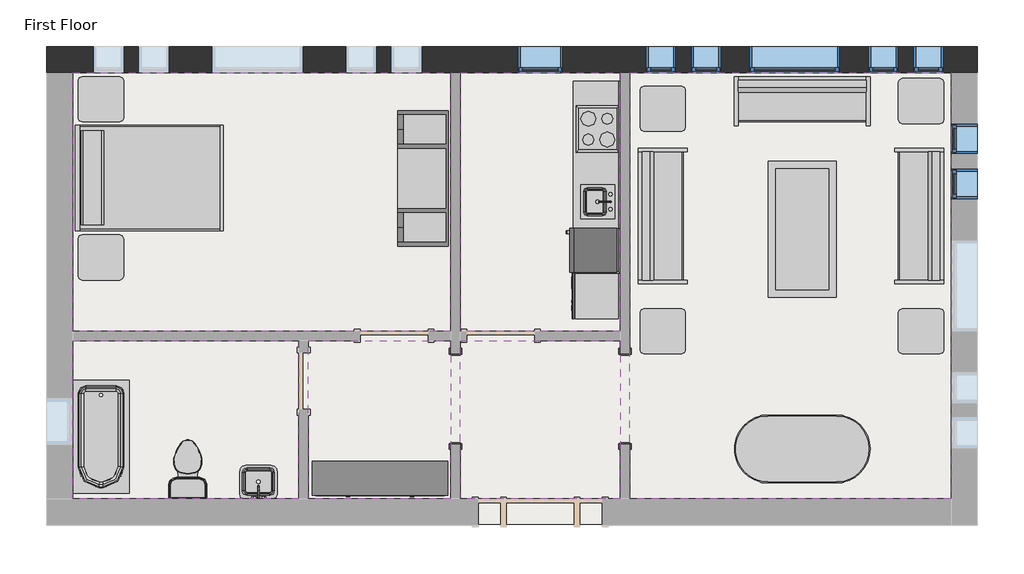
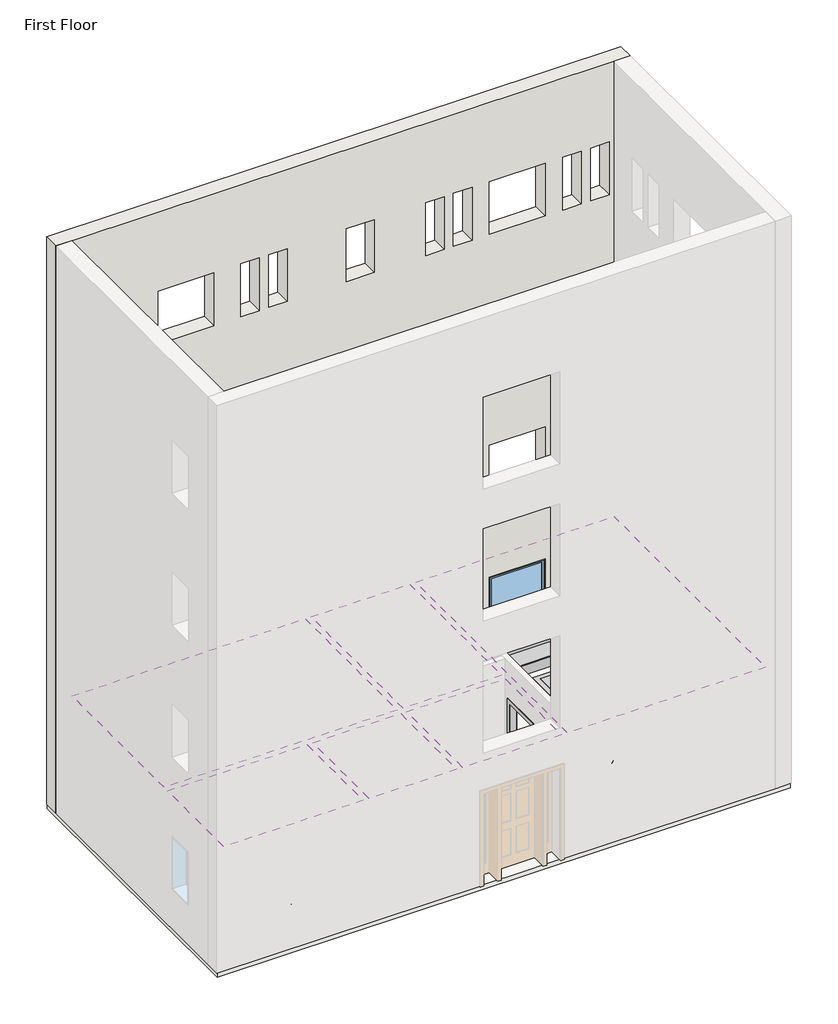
# One storey, part 2 of 2: 15 furniture elements, 8 windows, 6 coverings, 6 proxies, 4 flow terminals, 1 slab, 1 wall.
"""IFC4 building model written with IfcOpenShell, lengths in millimetres."""

from ifc_helpers import new_model, si_unit, frame, origin, place, context, project, spatial, polyline, outline, extrude, faceted_brep, transform, mapped, element, save
from components import proxy_a6faaae8, proxy_45b28599, proxy_a6516e2b, proxy_f44482cc, proxy_c523a7b7, flow_terminal_871c2e40, flow_terminal_62a433f7, toilet_domestic_3d_toilet_domestic_3d_f7549cf7, toilet_domestic_3d_toilet_domestic_3d_183bbd19, tub_rectangular_3d_tub_rectangular_3d_c56944d8, furniture_096e7f55, furniture_dc2eca4b, furniture_7c473f12, furniture_cf0b6580, furniture_a4ffab56, furniture_cd93a443, furniture_2c34a4f9, furniture_3a588284, window_da97879f, window_60baf983, window_6eb97611

model = new_model("IFC4")

# Units and contexts
model_context = context("Model", 3, world=origin())
ifc_project = project(units=[si_unit("LENGTHUNIT", "METRE", prefix="MILLI")], contexts=[model_context])

# Site, building, storey
site = spatial("IfcSite", under=ifc_project)
building = spatial("IfcBuilding", under=site)
storey = spatial("IfcBuildingStorey", under=building, Name="First Floor", Elevation=0.0)

# Proxies
placement = place(None, origin())
proxy_shape = proxy_a6faaae8(model_context)
element("IfcBuildingElementProxy", 1, Name="Cook Top-4 Unit2 : 22\" x 20\"", ObjectType="Cook Top-4 Unit2 : 22\" x 20\"", at=placement, inside=storey, context=model_context, shape_type="MappedRepresentation", body=[
    mapped(proxy_shape, transform((2840.1428612, 5164.2241162, 0.0), x_axis=(0.0, -1.0000000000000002, 0.0), y_axis=(1.0000000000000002, 0.0, 0.0), z_axis=(0.0, 0.0, 1.0))),
])
proxy_2_shape = proxy_45b28599(model_context)
element("IfcBuildingElementProxy", 2, Name="Dishwasher : 24\" x 24\" x 34\"", ObjectType="Dishwasher : 24\" x 24\" x 34\"", at=placement, inside=storey, context=model_context, shape_type="MappedRepresentation", body=[
    mapped(proxy_2_shape, transform((2548.2932964, 3298.6415847, 0.0), x_axis=(0.0, -1.0000000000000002, 0.0), y_axis=(1.0000000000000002, 0.0, 0.0), z_axis=(0.0, 0.0, 1.0))),
])
proxy_3_shape = proxy_a6516e2b(model_context)
element("IfcBuildingElementProxy", 3, Name="Kitchenette - Medium : 8' 6\"", ObjectType="Kitchenette - Medium : 8' 6\"", at=placement, inside=storey, context=model_context, shape_type="MappedRepresentation", body=[
    mapped(proxy_3_shape, transform((3144.9428612, 4535.2618211, 0.0), x_axis=(0.0, -1.0000000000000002, 0.0), y_axis=(1.0000000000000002, 0.0, 0.0), z_axis=(0.0, 0.0, 1.0))),
])
proxy_4_shape = proxy_f44482cc(model_context)
element("IfcBuildingElementProxy", 4, Name="Passage Opening-Cased : 48\" x 84\"", ObjectType="Passage Opening-Cased : 48\" x 84\"", at=placement, inside=storey, context=model_context, shape_type="MappedRepresentation", body=[
    mapped(proxy_4_shape, transform((3208.4428612, 1537.2944757, 0.0), x_axis=(0.0, 1.0, 0.0), y_axis=(-1.0, 0.0, 0.0), z_axis=(0.0, 0.0, 1.0))),
])
element("IfcBuildingElementProxy", 5, Name="Passage Opening-Cased : 48\" x 84\"", ObjectType="Passage Opening-Cased : 48\" x 84\"", at=placement, inside=storey, context=model_context, shape_type="MappedRepresentation", body=[
    mapped(proxy_4_shape, transform((922.4428612, 1537.2944757, 0.0), x_axis=(0.0, 1.0, 0.0), y_axis=(-1.0, 0.0, 0.0), z_axis=(0.0, 0.0, 1.0))),
])
proxy_5_shape = proxy_c523a7b7(model_context)
element("IfcBuildingElementProxy", 6, Name="Refrigerator : 24\" x 25\" LH", ObjectType="Refrigerator : 24\" x 25\" LH", at=placement, inside=storey, context=model_context, shape_type="MappedRepresentation", body=[
    mapped(proxy_5_shape, transform((2794.4938897, 3532.2741162, 0.0), x_axis=(0.0, -1.0000000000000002, 0.0), y_axis=(1.0000000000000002, 0.0, 0.0), z_axis=(0.0, 0.0, 1.0))),
])

# Coverings
element("IfcCovering", 7, ObjectType="GWB on Mtl. Stud", at=placement, inside=storey, context=model_context, shape_type="SweptSolid", body=[
    extrude(outline(polyline([(-4235.3446388, 5924.893319), (858.9428612, 5924.893319), (858.9428612, 2441.918319), (-4235.3446388, 2441.918319), (-4235.3446388, 5924.893319)])), frame((0.0, 0.0, 2590.8), z_axis=(0.0, 0.0, 1.0), x_axis=(1.0, 0.0, 0.0)), (0.0, 0.0, 1.0), 107.95),
])
element("IfcCovering", 8, ObjectType="GWB on Mtl. Stud", at=placement, inside=storey, context=model_context, shape_type="SweptSolid", body=[
    extrude(outline(polyline([(-1187.3446388, 2314.918319), (-1187.3446388, 181.318319), (-4235.3446388, 181.318319), (-4235.3446388, 2314.918319), (-1187.3446388, 2314.918319)])), frame((0.0, 0.0, 2590.8), z_axis=(0.0, 0.0, 1.0), x_axis=(1.0, 0.0, 0.0)), (0.0, 0.0, 1.0), 107.95),
])
element("IfcCovering", 9, ObjectType="GWB on Mtl. Stud", at=placement, inside=storey, context=model_context, shape_type="SweptSolid", body=[
    extrude(outline(polyline([(858.9428612, 181.318319), (-1060.3446388, 181.318319), (-1060.3446388, 2314.918319), (858.9428612, 2314.918319), (858.9428612, 181.318319)])), frame((0.0, 0.0, 2590.8), z_axis=(0.0, 0.0, 1.0), x_axis=(1.0, 0.0, 0.0)), (0.0, 0.0, 1.0), 107.95),
])
element("IfcCovering", 10, ObjectType="GWB on Mtl. Stud", at=placement, inside=storey, context=model_context, shape_type="SweptSolid", body=[
    extrude(outline(polyline([(3144.9428612, 181.318319), (985.9428612, 181.318319), (985.9428612, 2314.918319), (3144.9428612, 2314.918319), (3144.9428612, 181.318319)])), frame((0.0, 0.0, 2590.8), z_axis=(0.0, 0.0, 1.0), x_axis=(1.0, 0.0, 0.0)), (0.0, 0.0, 1.0), 107.95),
])
element("IfcCovering", 11, ObjectType="GWB on Mtl. Stud", at=placement, inside=storey, context=model_context, shape_type="SweptSolid", body=[
    extrude(outline(polyline([(985.9428612, 2441.918319), (985.9428612, 5924.893319), (3144.9428612, 5924.893319), (3144.9428612, 2441.918319), (985.9428612, 2441.918319)])), frame((0.0, 0.0, 2590.8), z_axis=(0.0, 0.0, 1.0), x_axis=(1.0, 0.0, 0.0)), (0.0, 0.0, 1.0), 107.95),
])
element("IfcCovering", 12, ObjectType="GWB on Mtl. Stud", at=placement, inside=storey, context=model_context, shape_type="SweptSolid", body=[
    extrude(outline(polyline([(3271.9428612, 181.318319), (3271.9428612, 5924.893319), (7604.2303612, 5924.893319), (7604.2303612, 181.318319), (3271.9428612, 181.318319)])), frame((0.0, 0.0, 2590.8), z_axis=(0.0, 0.0, 1.0), x_axis=(1.0, 0.0, 0.0)), (0.0, 0.0, 1.0), 107.95),
])

# Flow terminals
flow_terminal_shape = flow_terminal_871c2e40(model_context)
element("IfcFlowTerminal", 13, ObjectType="Sink Kitchen-Island : 18\" x 18\"", at=placement, inside=storey, context=model_context, shape_type="MappedRepresentation", body=[
    mapped(flow_terminal_shape, transform((2837.7974601, 4202.0133567, -14.4), x_axis=(0.0, -1.0000000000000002, 0.0), y_axis=(1.0000000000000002, 0.0, 0.0), z_axis=(0.0, 0.0, 1.0))),
])
flow_terminal_2_shape = flow_terminal_62a433f7(model_context)
element("IfcFlowTerminal", 14, ObjectType="Sink Vanity-Square : 20\" x 18\"", at=placement, inside=storey, context=model_context, shape_type="MappedRepresentation", body=[
    mapped(flow_terminal_2_shape, transform((-1717.7553983, 361.4637201, 0.0), x_axis=(-1.0, 0.0, 0.0), y_axis=(0.0, -1.0, 0.0), z_axis=(0.0, 0.0, 1.0))),
])
toilet_domestic_3d_toilet_domestic_3d_shape = toilet_domestic_3d_toilet_domestic_3d_f7549cf7(model_context)
toilet_domestic_3d_toilet_domestic_3d_2_shape = toilet_domestic_3d_toilet_domestic_3d_183bbd19(model_context)
element("IfcFlowTerminal", 15, ObjectType="Toilet-Domestic-3D : Toilet-Domestic-3D", at=placement, inside=storey, context=model_context, shape_type="MappedRepresentation", body=[
    mapped(toilet_domestic_3d_toilet_domestic_3d_shape, transform((-2684.3571388, 676.0143464, 0.0), x_axis=(-1.0000000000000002, 0.0, 0.0), y_axis=(0.0, -1.0000000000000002, 0.0), z_axis=(0.0, 0.0, 1.0))),
    mapped(toilet_domestic_3d_toilet_domestic_3d_2_shape, transform((-2684.3571388, 676.0143464, 0.0), x_axis=(-1.0000000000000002, 0.0, 0.0), y_axis=(0.0, -1.0000000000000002, 0.0), z_axis=(0.0, 0.0, 1.0))),
])
tub_rectangular_3d_tub_rectangular_3d_shape = tub_rectangular_3d_tub_rectangular_3d_c56944d8(model_context)
element("IfcFlowTerminal", 16, ObjectType="Tub-Rectangular-3D : Tub-Rectangular-3D", at=placement, inside=storey, context=model_context, shape_type="MappedRepresentation", body=[
    mapped(tub_rectangular_3d_tub_rectangular_3d_shape, transform((-4411.5571388, 672.5028503, 0.0), x_axis=(0.0, -1.0, 0.0), y_axis=(1.0, 0.0, 0.0), z_axis=(0.0, 0.0, 1.0))),
])

# Furniture
furniture_shape = furniture_096e7f55(model_context)
element("IfcFurniture", 17, ObjectType="Bed-Shaker : Double 56\" x 78\"", at=placement, inside=storey, context=model_context, shape_type="MappedRepresentation", body=[
    mapped(furniture_shape, transform((-4190.1839627, 4526.7496884, 0.0), x_axis=(0.0, 1.0000000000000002, 0.0), y_axis=(-1.0000000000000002, 0.0, 0.0), z_axis=(0.0, 0.0, 1.0))),
])
furniture_2_shape = furniture_dc2eca4b(model_context)
element("IfcFurniture", 18, ObjectType="Counter Top w Sink Hole : 24\" Depth", at=placement, inside=storey, context=model_context, shape_type="MappedRepresentation", body=[
    mapped(furniture_2_shape, transform((3144.9428612, 4611.4618211, -14.4), x_axis=(0.0, -1.0000000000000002, 0.0), y_axis=(1.0000000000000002, 0.0, 0.0), z_axis=(0.0, 0.0, 1.0))),
])
furniture_3_shape = furniture_7c473f12(model_context)
element("IfcFurniture", 19, ObjectType="Dresser : 72\" x 60\" x 18\"", at=placement, inside=storey, context=model_context, shape_type="MappedRepresentation", body=[
    mapped(furniture_3_shape, transform((175.636121, 823.8812731, 0.0), x_axis=(1.0, 0.0, 0.0), y_axis=(0.0, 1.0, 0.0), z_axis=(0.0, 0.0, 1.0))),
])
furniture_4_shape = furniture_cf0b6580(model_context)
element("IfcFurniture", 20, ObjectType="Entertainment Center : 72\" x 72\" x 24\"", at=placement, inside=storey, context=model_context, shape_type="MappedRepresentation", body=[
    mapped(furniture_4_shape, transform((927.2053612, 4500.905819, 0.0), x_axis=(0.0, -1.0000000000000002, 0.0), y_axis=(1.0000000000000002, 0.0, 0.0), z_axis=(0.0, 0.0, 1.0))),
])
furniture_5_shape = furniture_a4ffab56(model_context)
element("IfcFurniture", 21, ObjectType="Sofa : 72\"", at=placement, inside=storey, context=model_context, shape_type="MappedRepresentation", body=[
    mapped(furniture_5_shape, transform((5525.6723694, 5396.1517206, 0.0), x_axis=(1.0, 0.0, 0.0), y_axis=(0.0, 1.0, 0.0), z_axis=(0.0, 0.0, 1.0))),
])
element("IfcFurniture", 22, ObjectType="Sofa : 72\"", at=placement, inside=storey, context=model_context, shape_type="MappedRepresentation", body=[
    mapped(furniture_5_shape, transform((7024.6887628, 4063.2763108, 0.0), x_axis=(0.0, -1.0, 0.0), y_axis=(1.0, 0.0, 0.0), z_axis=(0.0, 0.0, 1.0))),
])
element("IfcFurniture", 23, ObjectType="Sofa : 72\"", at=placement, inside=storey, context=model_context, shape_type="MappedRepresentation", body=[
    mapped(furniture_5_shape, transform((3862.5969596, 3922.5353272, 0.0), x_axis=(0.0, 1.0000000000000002, 0.0), y_axis=(-1.0000000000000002, 0.0, 0.0), z_axis=(0.0, 0.0, 1.0))),
])
furniture_6_shape = furniture_cd93a443(model_context)
element("IfcFurniture", 24, ObjectType="Table-Coffee : 36\" x 72\" x 18\"", at=placement, inside=storey, context=model_context, shape_type="MappedRepresentation", body=[
    mapped(furniture_6_shape, transform((5500.8317834, 3833.3715857, 0.0), x_axis=(0.0, -1.0, 0.0), y_axis=(1.0, 0.0, 0.0), z_axis=(0.0, 0.0, 1.0))),
])
furniture_7_shape = furniture_2c34a4f9(model_context)
element("IfcFurniture", 25, ObjectType="Table-Dining Oval : 36\" x 72\"", at=placement, inside=storey, context=model_context, shape_type="MappedRepresentation", body=[
    mapped(furniture_7_shape, transform((5997.8625333, 1212.5166797, 0.0), x_axis=(1.0, 0.0, 0.0), y_axis=(0.0, 1.0, 0.0), z_axis=(0.0, 0.0, 1.0))),
])
furniture_8_shape = furniture_3a588284(model_context)
element("IfcFurniture", 26, ObjectType="Table-End : 24\" x 24\"", at=placement, inside=storey, context=model_context, shape_type="MappedRepresentation", body=[
    mapped(furniture_8_shape, transform((-4162.8782691, 5415.305819, 0.0), x_axis=(1.0, 0.0, 0.0), y_axis=(0.0, 1.0, 0.0), z_axis=(0.0, 0.0, 1.0))),
])
element("IfcFurniture", 27, ObjectType="Table-End : 24\" x 24\"", at=placement, inside=storey, context=model_context, shape_type="MappedRepresentation", body=[
    mapped(furniture_8_shape, transform((-4162.8782691, 3283.293319, 0.0), x_axis=(1.0, 0.0, 0.0), y_axis=(0.0, 1.0, 0.0), z_axis=(0.0, 0.0, 1.0))),
])
element("IfcFurniture", 28, ObjectType="Table-End : 24\" x 24\"", at=placement, inside=storey, context=model_context, shape_type="MappedRepresentation", body=[
    mapped(furniture_8_shape, transform((3407.9092309, 5288.305819, 0.0), x_axis=(1.0, 0.0, 0.0), y_axis=(0.0, 1.0, 0.0), z_axis=(0.0, 0.0, 1.0))),
])
element("IfcFurniture", 29, ObjectType="Table-End : 24\" x 24\"", at=placement, inside=storey, context=model_context, shape_type="MappedRepresentation", body=[
    mapped(furniture_8_shape, transform((6887.7092309, 5389.905819, 0.0), x_axis=(1.0, 0.0, 0.0), y_axis=(0.0, 1.0, 0.0), z_axis=(0.0, 0.0, 1.0))),
])
element("IfcFurniture", 30, ObjectType="Table-End : 24\" x 24\"", at=placement, inside=storey, context=model_context, shape_type="MappedRepresentation", body=[
    mapped(furniture_8_shape, transform((3407.9092309, 2289.518319, 0.0), x_axis=(1.0, 0.0, 0.0), y_axis=(0.0, 1.0, 0.0), z_axis=(0.0, 0.0, 1.0))),
])
element("IfcFurniture", 31, ObjectType="Table-End : 24\" x 24\"", at=placement, inside=storey, context=model_context, shape_type="MappedRepresentation", body=[
    mapped(furniture_8_shape, transform((6887.7092309, 2289.518319, 0.0), x_axis=(1.0, 0.0, 0.0), y_axis=(0.0, 1.0, 0.0), z_axis=(0.0, 0.0, 1.0))),
])

# Slab
element("IfcSlab", 32, ObjectType="LW Concrete on Metal Deck", at=placement, inside=storey, context=model_context, shape_type="SweptSolid", body=[
    extrude(outline(polyline([(7943.9553612, 6264.618319), (7943.9553612, -158.406681), (-4575.0696388, -158.406681), (-4575.0696388, 6264.618319), (7943.9553612, 6264.618319)])), frame((0.0, 0.0, -104.775), z_axis=(0.0, 0.0, 1.0), x_axis=(1.0, 0.0, 0.0)), (0.0, 0.0, 1.0), 104.775),
])

# Wall
element("IfcWall", 33, ObjectType="Exterior - Brick on Mtl. Stud", at=placement, inside=storey, context=model_context, shape_type="Brep", body=[
    faceted_brep([(-4587.7696388, 5924.893319, 0.0), (-4575.0696388, 5924.893319, 0.0), (-4235.3446388, 5924.893319, 0.0), (858.9428612, 5924.893319, 0.0), (985.9428612, 5924.893319, 0.0), (3144.9428612, 5924.893319, 0.0), (3271.9428612, 5924.893319, 0.0), (7604.2303612, 5924.893319, 0.0), (7943.9553612, 5924.893319, 0.0), (7956.6553612, 5924.893319, 0.0), (7956.6553612, 5924.893319, 13106.4), (7604.2303612, 5924.893319, 13106.4), (-4235.3446388, 5924.893319, 13106.4), (-4587.7696388, 5924.893319, 13106.4), (1760.6428612, 5924.893319, 2133.6), (2370.2428612, 5924.893319, 2133.6), (2370.2428612, 5924.893319, 914.4), (1760.6428612, 5924.893319, 914.4), (-2354.1571388, 5924.893319, 2133.6), (-1134.9571388, 5924.893319, 2133.6), (-1134.9571388, 5924.893319, 914.4), (-2354.1571388, 5924.893319, 914.4), (4884.8428612, 5924.893319, 2133.6), (6104.0428612, 5924.893319, 2133.6), (6104.0428612, 5924.893319, 914.4), (4884.8428612, 5924.893319, 914.4), (-3954.3571388, 5924.893319, 2133.6), (-3547.9571388, 5924.893319, 2133.6), (-3547.9571388, 5924.893319, 914.4), (-3954.3571388, 5924.893319, 914.4), (-3344.7571388, 5924.893319, 2133.6), (-2938.3571388, 5924.893319, 2133.6), (-2938.3571388, 5924.893319, 914.4), (-3344.7571388, 5924.893319, 914.4), (-144.3571388, 5924.893319, 2133.6), (-144.3571388, 5924.893319, 914.4), (-550.7571388, 5924.893319, 914.4), (-550.7571388, 5924.893319, 2133.6), (465.2428612, 5924.893319, 2133.6), (465.2428612, 5924.893319, 914.4), (58.8428612, 5924.893319, 914.4), (58.8428612, 5924.893319, 2133.6), (4097.4428612, 5924.893319, 2133.6), (4503.8428612, 5924.893319, 2133.6), (4503.8428612, 5924.893319, 914.4), (4097.4428612, 5924.893319, 914.4), (3487.8428612, 5924.893319, 2133.6), (3894.2428612, 5924.893319, 2133.6), (3894.2428612, 5924.893319, 914.4), (3487.8428612, 5924.893319, 914.4), (7094.6428612, 5924.893319, 2133.6), (7501.0428612, 5924.893319, 2133.6), (7501.0428612, 5924.893319, 914.4), (7094.6428612, 5924.893319, 914.4), (6485.0428612, 5924.893319, 2133.6), (6891.4428612, 5924.893319, 2133.6), (6891.4428612, 5924.893319, 914.4), (6485.0428612, 5924.893319, 914.4), (7094.6428612, 5924.893319, 11277.6), (7501.0428612, 5924.893319, 11277.6), (7501.0428612, 5924.893319, 10058.4), (7094.6428612, 5924.893319, 10058.4), (6485.0428612, 5924.893319, 11277.6), (6891.4428612, 5924.893319, 11277.6), (6891.4428612, 5924.893319, 10058.4), (6485.0428612, 5924.893319, 10058.4), (4097.4428612, 5924.893319, 11277.6), (4503.8428612, 5924.893319, 11277.6), (4503.8428612, 5924.893319, 10058.4), (4097.4428612, 5924.893319, 10058.4), (3487.8428612, 5924.893319, 11277.6), (3894.2428612, 5924.893319, 11277.6), (3894.2428612, 5924.893319, 10058.4), (3487.8428612, 5924.893319, 10058.4), (-144.3571388, 5924.893319, 11277.6), (-144.3571388, 5924.893319, 10058.4), (-550.7571388, 5924.893319, 10058.4), (-550.7571388, 5924.893319, 11277.6), (465.2428612, 5924.893319, 11277.6), (465.2428612, 5924.893319, 10058.4), (58.8428612, 5924.893319, 10058.4), (58.8428612, 5924.893319, 11277.6), (-3344.7571388, 5924.893319, 11277.6), (-2938.3571388, 5924.893319, 11277.6), (-2938.3571388, 5924.893319, 10058.4), (-3344.7571388, 5924.893319, 10058.4), (-3954.3571388, 5924.893319, 11277.6), (-3547.9571388, 5924.893319, 11277.6), (-3547.9571388, 5924.893319, 10058.4), (-3954.3571388, 5924.893319, 10058.4), (4884.8428612, 5924.893319, 11277.6), (6104.0428612, 5924.893319, 11277.6), (6104.0428612, 5924.893319, 10058.4), (4884.8428612, 5924.893319, 10058.4), (-2354.1571388, 5924.893319, 11277.6), (-1134.9571388, 5924.893319, 11277.6), (-1134.9571388, 5924.893319, 10058.4), (-2354.1571388, 5924.893319, 10058.4), (1760.6428612, 5924.893319, 11277.6), (2370.2428612, 5924.893319, 11277.6), (2370.2428612, 5924.893319, 10058.4), (1760.6428612, 5924.893319, 10058.4), (7094.6428612, 5924.893319, 5181.6), (7501.0428612, 5924.893319, 5181.6), (7501.0428612, 5924.893319, 3962.4), (7094.6428612, 5924.893319, 3962.4), (6485.0428612, 5924.893319, 5181.6), (6891.4428612, 5924.893319, 5181.6), (6891.4428612, 5924.893319, 3962.4), (6485.0428612, 5924.893319, 3962.4), (4097.4428612, 5924.893319, 5181.6), (4503.8428612, 5924.893319, 5181.6), (4503.8428612, 5924.893319, 3962.4), (4097.4428612, 5924.893319, 3962.4), (3487.8428612, 5924.893319, 5181.6), (3894.2428612, 5924.893319, 5181.6), (3894.2428612, 5924.893319, 3962.4), (3487.8428612, 5924.893319, 3962.4), (-144.3571388, 5924.893319, 5181.6), (-144.3571388, 5924.893319, 3962.4), (-550.7571388, 5924.893319, 3962.4), (-550.7571388, 5924.893319, 5181.6), (465.2428612, 5924.893319, 5181.6), (465.2428612, 5924.893319, 3962.4), (58.8428612, 5924.893319, 3962.4), (58.8428612, 5924.893319, 5181.6), (-3344.7571388, 5924.893319, 5181.6), (-2938.3571388, 5924.893319, 5181.6), (-2938.3571388, 5924.893319, 3962.4), (-3344.7571388, 5924.893319, 3962.4), (-3954.3571388, 5924.893319, 5181.6), (-3547.9571388, 5924.893319, 5181.6), (-3547.9571388, 5924.893319, 3962.4), (-3954.3571388, 5924.893319, 3962.4), (4884.8428612, 5924.893319, 5181.6), (6104.0428612, 5924.893319, 5181.6), (6104.0428612, 5924.893319, 3962.4), (4884.8428612, 5924.893319, 3962.4), (-2354.1571388, 5924.893319, 5181.6), (-1134.9571388, 5924.893319, 5181.6), (-1134.9571388, 5924.893319, 3962.4), (-2354.1571388, 5924.893319, 3962.4), (1760.6428612, 5924.893319, 5181.6), (2370.2428612, 5924.893319, 5181.6), (2370.2428612, 5924.893319, 3962.4), (1760.6428612, 5924.893319, 3962.4), (7094.6428612, 5924.893319, 8229.6), (7501.0428612, 5924.893319, 8229.6), (7501.0428612, 5924.893319, 7010.4), (7094.6428612, 5924.893319, 7010.4), (6485.0428612, 5924.893319, 8229.6), (6891.4428612, 5924.893319, 8229.6), (6891.4428612, 5924.893319, 7010.4), (6485.0428612, 5924.893319, 7010.4), (4097.4428612, 5924.893319, 8229.6), (4503.8428612, 5924.893319, 8229.6), (4503.8428612, 5924.893319, 7010.4), (4097.4428612, 5924.893319, 7010.4), (3487.8428612, 5924.893319, 8229.6), (3894.2428612, 5924.893319, 8229.6), (3894.2428612, 5924.893319, 7010.4), (3487.8428612, 5924.893319, 7010.4), (-144.3571388, 5924.893319, 8229.6), (-144.3571388, 5924.893319, 7010.4), (-550.7571388, 5924.893319, 7010.4), (-550.7571388, 5924.893319, 8229.6), (465.2428612, 5924.893319, 8229.6), (465.2428612, 5924.893319, 7010.4), (58.8428612, 5924.893319, 7010.4), (58.8428612, 5924.893319, 8229.6), (-3344.7571388, 5924.893319, 8229.6), (-2938.3571388, 5924.893319, 8229.6), (-2938.3571388, 5924.893319, 7010.4), (-3344.7571388, 5924.893319, 7010.4), (-3954.3571388, 5924.893319, 8229.6), (-3547.9571388, 5924.893319, 8229.6), (-3547.9571388, 5924.893319, 7010.4), (-3954.3571388, 5924.893319, 7010.4), (4884.8428612, 5924.893319, 8229.6), (6104.0428612, 5924.893319, 8229.6), (6104.0428612, 5924.893319, 7010.4), (4884.8428612, 5924.893319, 7010.4), (-2354.1571388, 5924.893319, 8229.6), (-1134.9571388, 5924.893319, 8229.6), (-1134.9571388, 5924.893319, 7010.4), (-2354.1571388, 5924.893319, 7010.4), (1760.6428612, 5924.893319, 8229.6), (2370.2428612, 5924.893319, 8229.6), (2370.2428612, 5924.893319, 7010.4), (1760.6428612, 5924.893319, 7010.4), (-4587.7696388, 6277.318319, 0.0), (-4587.7696388, 6277.318319, 13106.4), (7956.6553612, 6277.318319, 13106.4), (7956.6553612, 6277.318319, 0.0), (7943.9553612, 6277.318319, 0.0), (-4575.0696388, 6277.318319, 0.0), (1760.6428612, 6277.318319, 2133.6), (1760.6428612, 6277.318319, 914.4), (2370.2428612, 6277.318319, 914.4), (2370.2428612, 6277.318319, 2133.6), (-2354.1571388, 6277.318319, 2133.6), (-2354.1571388, 6277.318319, 914.4), (-1134.9571388, 6277.318319, 914.4), (-1134.9571388, 6277.318319, 2133.6), (4884.8428612, 6277.318319, 2133.6), (4884.8428612, 6277.318319, 914.4), (6104.0428612, 6277.318319, 914.4), (6104.0428612, 6277.318319, 2133.6), (-3954.3571388, 6277.318319, 2133.6), (-3954.3571388, 6277.318319, 914.4), (-3547.9571388, 6277.318319, 914.4), (-3547.9571388, 6277.318319, 2133.6), (-3344.7571388, 6277.318319, 2133.6), (-3344.7571388, 6277.318319, 914.4), (-2938.3571388, 6277.318319, 914.4), (-2938.3571388, 6277.318319, 2133.6), (-144.3571388, 6277.318319, 2133.6), (-550.7571388, 6277.318319, 2133.6), (-550.7571388, 6277.318319, 914.4), (-144.3571388, 6277.318319, 914.4), (465.2428612, 6277.318319, 2133.6), (58.8428612, 6277.318319, 2133.6), (58.8428612, 6277.318319, 914.4), (465.2428612, 6277.318319, 914.4), (4097.4428612, 6277.318319, 2133.6), (4097.4428612, 6277.318319, 914.4), (4503.8428612, 6277.318319, 914.4), (4503.8428612, 6277.318319, 2133.6), (3487.8428612, 6277.318319, 2133.6), (3487.8428612, 6277.318319, 914.4), (3894.2428612, 6277.318319, 914.4), (3894.2428612, 6277.318319, 2133.6), (7094.6428612, 6277.318319, 2133.6), (7094.6428612, 6277.318319, 914.4), (7501.0428612, 6277.318319, 914.4), (7501.0428612, 6277.318319, 2133.6), (6485.0428612, 6277.318319, 2133.6), (6485.0428612, 6277.318319, 914.4), (6891.4428612, 6277.318319, 914.4), (6891.4428612, 6277.318319, 2133.6), (7094.6428612, 6277.318319, 11277.6), (7094.6428612, 6277.318319, 10058.4), (7501.0428612, 6277.318319, 10058.4), (7501.0428612, 6277.318319, 11277.6), (6485.0428612, 6277.318319, 11277.6), (6485.0428612, 6277.318319, 10058.4), (6891.4428612, 6277.318319, 10058.4), (6891.4428612, 6277.318319, 11277.6), (4097.4428612, 6277.318319, 11277.6), (4097.4428612, 6277.318319, 10058.4), (4503.8428612, 6277.318319, 10058.4), (4503.8428612, 6277.318319, 11277.6), (3487.8428612, 6277.318319, 11277.6), (3487.8428612, 6277.318319, 10058.4), (3894.2428612, 6277.318319, 10058.4), (3894.2428612, 6277.318319, 11277.6), (-144.3571388, 6277.318319, 11277.6), (-550.7571388, 6277.318319, 11277.6), (-550.7571388, 6277.318319, 10058.4), (-144.3571388, 6277.318319, 10058.4), (465.2428612, 6277.318319, 11277.6), (58.8428612, 6277.318319, 11277.6), (58.8428612, 6277.318319, 10058.4), (465.2428612, 6277.318319, 10058.4), (-3344.7571388, 6277.318319, 11277.6), (-3344.7571388, 6277.318319, 10058.4), (-2938.3571388, 6277.318319, 10058.4), (-2938.3571388, 6277.318319, 11277.6), (-3954.3571388, 6277.318319, 11277.6), (-3954.3571388, 6277.318319, 10058.4), (-3547.9571388, 6277.318319, 10058.4), (-3547.9571388, 6277.318319, 11277.6), (4884.8428612, 6277.318319, 11277.6), (4884.8428612, 6277.318319, 10058.4), (6104.0428612, 6277.318319, 10058.4), (6104.0428612, 6277.318319, 11277.6), (-2354.1571388, 6277.318319, 11277.6), (-2354.1571388, 6277.318319, 10058.4), (-1134.9571388, 6277.318319, 10058.4), (-1134.9571388, 6277.318319, 11277.6), (1760.6428612, 6277.318319, 11277.6), (1760.6428612, 6277.318319, 10058.4), (2370.2428612, 6277.318319, 10058.4), (2370.2428612, 6277.318319, 11277.6), (7094.6428612, 6277.318319, 5181.6), (7094.6428612, 6277.318319, 3962.4), (7501.0428612, 6277.318319, 3962.4), (7501.0428612, 6277.318319, 5181.6), (6485.0428612, 6277.318319, 5181.6), (6485.0428612, 6277.318319, 3962.4), (6891.4428612, 6277.318319, 3962.4), (6891.4428612, 6277.318319, 5181.6), (4097.4428612, 6277.318319, 5181.6), (4097.4428612, 6277.318319, 3962.4), (4503.8428612, 6277.318319, 3962.4), (4503.8428612, 6277.318319, 5181.6), (3487.8428612, 6277.318319, 5181.6), (3487.8428612, 6277.318319, 3962.4), (3894.2428612, 6277.318319, 3962.4), (3894.2428612, 6277.318319, 5181.6), (-144.3571388, 6277.318319, 5181.6), (-550.7571388, 6277.318319, 5181.6), (-550.7571388, 6277.318319, 3962.4), (-144.3571388, 6277.318319, 3962.4), (465.2428612, 6277.318319, 5181.6), (58.8428612, 6277.318319, 5181.6), (58.8428612, 6277.318319, 3962.4), (465.2428612, 6277.318319, 3962.4), (-3344.7571388, 6277.318319, 5181.6), (-3344.7571388, 6277.318319, 3962.4), (-2938.3571388, 6277.318319, 3962.4), (-2938.3571388, 6277.318319, 5181.6), (-3954.3571388, 6277.318319, 5181.6), (-3954.3571388, 6277.318319, 3962.4), (-3547.9571388, 6277.318319, 3962.4), (-3547.9571388, 6277.318319, 5181.6), (4884.8428612, 6277.318319, 5181.6), (4884.8428612, 6277.318319, 3962.4), (6104.0428612, 6277.318319, 3962.4), (6104.0428612, 6277.318319, 5181.6), (-2354.1571388, 6277.318319, 5181.6), (-2354.1571388, 6277.318319, 3962.4), (-1134.9571388, 6277.318319, 3962.4), (-1134.9571388, 6277.318319, 5181.6), (1760.6428612, 6277.318319, 5181.6), (1760.6428612, 6277.318319, 3962.4), (2370.2428612, 6277.318319, 3962.4), (2370.2428612, 6277.318319, 5181.6), (7094.6428612, 6277.318319, 8229.6), (7094.6428612, 6277.318319, 7010.4), (7501.0428612, 6277.318319, 7010.4), (7501.0428612, 6277.318319, 8229.6), (6485.0428612, 6277.318319, 8229.6), (6485.0428612, 6277.318319, 7010.4), (6891.4428612, 6277.318319, 7010.4), (6891.4428612, 6277.318319, 8229.6), (4097.4428612, 6277.318319, 8229.6), (4097.4428612, 6277.318319, 7010.4), (4503.8428612, 6277.318319, 7010.4), (4503.8428612, 6277.318319, 8229.6), (3487.8428612, 6277.318319, 8229.6), (3487.8428612, 6277.318319, 7010.4), (3894.2428612, 6277.318319, 7010.4), (3894.2428612, 6277.318319, 8229.6), (-144.3571388, 6277.318319, 8229.6), (-550.7571388, 6277.318319, 8229.6), (-550.7571388, 6277.318319, 7010.4), (-144.3571388, 6277.318319, 7010.4), (465.2428612, 6277.318319, 8229.6), (58.8428612, 6277.318319, 8229.6), (58.8428612, 6277.318319, 7010.4), (465.2428612, 6277.318319, 7010.4), (-3344.7571388, 6277.318319, 8229.6), (-3344.7571388, 6277.318319, 7010.4), (-2938.3571388, 6277.318319, 7010.4), (-2938.3571388, 6277.318319, 8229.6), (-3954.3571388, 6277.318319, 8229.6), (-3954.3571388, 6277.318319, 7010.4), (-3547.9571388, 6277.318319, 7010.4), (-3547.9571388, 6277.318319, 8229.6), (4884.8428612, 6277.318319, 8229.6), (4884.8428612, 6277.318319, 7010.4), (6104.0428612, 6277.318319, 7010.4), (6104.0428612, 6277.318319, 8229.6), (-2354.1571388, 6277.318319, 8229.6), (-2354.1571388, 6277.318319, 7010.4), (-1134.9571388, 6277.318319, 7010.4), (-1134.9571388, 6277.318319, 8229.6), (1760.6428612, 6277.318319, 8229.6), (1760.6428612, 6277.318319, 7010.4), (2370.2428612, 6277.318319, 7010.4), (2370.2428612, 6277.318319, 8229.6), (7956.6553612, 6264.618319, 0.0), (-4587.7696388, 6264.618319, 0.0), (-4575.0696388, 6264.618319, 0.0), (7943.9553612, 6264.618319, 0.0)], [[[0, 1, 2, 3, 4, 5, 6, 7, 8, 9, 10, 11, 12, 13], [14, 15, 16, 17], [18, 19, 20, 21], [22, 23, 24, 25], [26, 27, 28, 29], [30, 31, 32, 33], [34, 35, 36, 37], [38, 39, 40, 41], [42, 43, 44, 45], [46, 47, 48, 49], [50, 51, 52, 53], [54, 55, 56, 57], [58, 59, 60, 61], [62, 63, 64, 65], [66, 67, 68, 69], [70, 71, 72, 73], [74, 75, 76, 77], [78, 79, 80, 81], [82, 83, 84, 85], [86, 87, 88, 89], [90, 91, 92, 93], [94, 95, 96, 97], [98, 99, 100, 101], [102, 103, 104, 105], [106, 107, 108, 109], [110, 111, 112, 113], [114, 115, 116, 117], [118, 119, 120, 121], [122, 123, 124, 125], [126, 127, 128, 129], [130, 131, 132, 133], [134, 135, 136, 137], [138, 139, 140, 141], [142, 143, 144, 145], [146, 147, 148, 149], [150, 151, 152, 153], [154, 155, 156, 157], [158, 159, 160, 161], [162, 163, 164, 165], [166, 167, 168, 169], [170, 171, 172, 173], [174, 175, 176, 177], [178, 179, 180, 181], [182, 183, 184, 185], [186, 187, 188, 189]], [[190, 191, 192, 193, 194, 195], [196, 197, 198, 199], [200, 201, 202, 203], [204, 205, 206, 207], [208, 209, 210, 211], [212, 213, 214, 215], [216, 217, 218, 219], [220, 221, 222, 223], [224, 225, 226, 227], [228, 229, 230, 231], [232, 233, 234, 235], [236, 237, 238, 239], [240, 241, 242, 243], [244, 245, 246, 247], [248, 249, 250, 251], [252, 253, 254, 255], [256, 257, 258, 259], [260, 261, 262, 263], [264, 265, 266, 267], [268, 269, 270, 271], [272, 273, 274, 275], [276, 277, 278, 279], [280, 281, 282, 283], [284, 285, 286, 287], [288, 289, 290, 291], [292, 293, 294, 295], [296, 297, 298, 299], [300, 301, 302, 303], [304, 305, 306, 307], [308, 309, 310, 311], [312, 313, 314, 315], [316, 317, 318, 319], [320, 321, 322, 323], [324, 325, 326, 327], [328, 329, 330, 331], [332, 333, 334, 335], [336, 337, 338, 339], [340, 341, 342, 343], [344, 345, 346, 347], [348, 349, 350, 351], [352, 353, 354, 355], [356, 357, 358, 359], [360, 361, 362, 363], [364, 365, 366, 367], [368, 369, 370, 371]], [[13, 12, 11, 10, 192, 191]], [[10, 9, 372, 193, 192]], [[0, 13, 191, 190, 373]], [[197, 196, 14, 17]], [[198, 197, 17, 16]], [[199, 198, 16, 15]], [[196, 199, 15, 14]], [[201, 200, 18, 21]], [[202, 201, 21, 20]], [[203, 202, 20, 19]], [[200, 203, 19, 18]], [[205, 204, 22, 25]], [[206, 205, 25, 24]], [[207, 206, 24, 23]], [[204, 207, 23, 22]], [[209, 208, 26, 29]], [[210, 209, 29, 28]], [[211, 210, 28, 27]], [[208, 211, 27, 26]], [[213, 212, 30, 33]], [[214, 213, 33, 32]], [[215, 214, 32, 31]], [[212, 215, 31, 30]], [[35, 34, 216, 219]], [[36, 35, 219, 218]], [[37, 36, 218, 217]], [[34, 37, 217, 216]], [[39, 38, 220, 223]], [[40, 39, 223, 222]], [[41, 40, 222, 221]], [[38, 41, 221, 220]], [[225, 224, 42, 45]], [[226, 225, 45, 44]], [[227, 226, 44, 43]], [[224, 227, 43, 42]], [[229, 228, 46, 49]], [[230, 229, 49, 48]], [[231, 230, 48, 47]], [[228, 231, 47, 46]], [[233, 232, 50, 53]], [[234, 233, 53, 52]], [[235, 234, 52, 51]], [[232, 235, 51, 50]], [[237, 236, 54, 57]], [[238, 237, 57, 56]], [[239, 238, 56, 55]], [[236, 239, 55, 54]], [[1, 0, 373, 374]], [[373, 190, 195, 374]], [[9, 8, 375, 372]], [[195, 194, 375, 374]], [[194, 193, 372, 375]], [[8, 7, 6, 5, 4, 3, 2, 1, 374, 375]], [[241, 240, 58, 61]], [[242, 241, 61, 60]], [[243, 242, 60, 59]], [[240, 243, 59, 58]], [[245, 244, 62, 65]], [[246, 245, 65, 64]], [[247, 246, 64, 63]], [[244, 247, 63, 62]], [[249, 248, 66, 69]], [[250, 249, 69, 68]], [[251, 250, 68, 67]], [[248, 251, 67, 66]], [[253, 252, 70, 73]], [[254, 253, 73, 72]], [[255, 254, 72, 71]], [[252, 255, 71, 70]], [[75, 74, 256, 259]], [[76, 75, 259, 258]], [[77, 76, 258, 257]], [[74, 77, 257, 256]], [[79, 78, 260, 263]], [[80, 79, 263, 262]], [[81, 80, 262, 261]], [[78, 81, 261, 260]], [[265, 264, 82, 85]], [[266, 265, 85, 84]], [[267, 266, 84, 83]], [[264, 267, 83, 82]], [[269, 268, 86, 89]], [[270, 269, 89, 88]], [[271, 270, 88, 87]], [[268, 271, 87, 86]], [[273, 272, 90, 93]], [[274, 273, 93, 92]], [[275, 274, 92, 91]], [[272, 275, 91, 90]], [[277, 276, 94, 97]], [[278, 277, 97, 96]], [[279, 278, 96, 95]], [[276, 279, 95, 94]], [[281, 280, 98, 101]], [[282, 281, 101, 100]], [[283, 282, 100, 99]], [[280, 283, 99, 98]], [[285, 284, 102, 105]], [[286, 285, 105, 104]], [[287, 286, 104, 103]], [[284, 287, 103, 102]], [[289, 288, 106, 109]], [[290, 289, 109, 108]], [[291, 290, 108, 107]], [[288, 291, 107, 106]], [[293, 292, 110, 113]], [[294, 293, 113, 112]], [[295, 294, 112, 111]], [[292, 295, 111, 110]], [[297, 296, 114, 117]], [[298, 297, 117, 116]], [[299, 298, 116, 115]], [[296, 299, 115, 114]], [[119, 118, 300, 303]], [[120, 119, 303, 302]], [[121, 120, 302, 301]], [[118, 121, 301, 300]], [[123, 122, 304, 307]], [[124, 123, 307, 306]], [[125, 124, 306, 305]], [[122, 125, 305, 304]], [[309, 308, 126, 129]], [[310, 309, 129, 128]], [[311, 310, 128, 127]], [[308, 311, 127, 126]], [[313, 312, 130, 133]], [[314, 313, 133, 132]], [[315, 314, 132, 131]], [[312, 315, 131, 130]], [[317, 316, 134, 137]], [[318, 317, 137, 136]], [[319, 318, 136, 135]], [[316, 319, 135, 134]], [[321, 320, 138, 141]], [[322, 321, 141, 140]], [[323, 322, 140, 139]], [[320, 323, 139, 138]], [[325, 324, 142, 145]], [[326, 325, 145, 144]], [[327, 326, 144, 143]], [[324, 327, 143, 142]], [[329, 328, 146, 149]], [[330, 329, 149, 148]], [[331, 330, 148, 147]], [[328, 331, 147, 146]], [[333, 332, 150, 153]], [[334, 333, 153, 152]], [[335, 334, 152, 151]], [[332, 335, 151, 150]], [[337, 336, 154, 157]], [[338, 337, 157, 156]], [[339, 338, 156, 155]], [[336, 339, 155, 154]], [[341, 340, 158, 161]], [[342, 341, 161, 160]], [[343, 342, 160, 159]], [[340, 343, 159, 158]], [[163, 162, 344, 347]], [[164, 163, 347, 346]], [[165, 164, 346, 345]], [[162, 165, 345, 344]], [[167, 166, 348, 351]], [[168, 167, 351, 350]], [[169, 168, 350, 349]], [[166, 169, 349, 348]], [[353, 352, 170, 173]], [[354, 353, 173, 172]], [[355, 354, 172, 171]], [[352, 355, 171, 170]], [[357, 356, 174, 177]], [[358, 357, 177, 176]], [[359, 358, 176, 175]], [[356, 359, 175, 174]], [[361, 360, 178, 181]], [[362, 361, 181, 180]], [[363, 362, 180, 179]], [[360, 363, 179, 178]], [[365, 364, 182, 185]], [[366, 365, 185, 184]], [[367, 366, 184, 183]], [[364, 367, 183, 182]], [[369, 368, 186, 189]], [[370, 369, 189, 188]], [[371, 370, 188, 187]], [[368, 371, 187, 186]]]),
])

# Windows
window_shape = window_da97879f(model_context)
element("IfcWindow", 34, ObjectType="Fixed : 16\" x 48\"", at=placement, inside=storey, context=model_context, shape_type="MappedRepresentation", body=[
    mapped(window_shape, transform((3652.9428612, 6101.105819, 0.0), x_axis=(-1.0, 0.0, 0.0), y_axis=(0.0, -1.0, 0.0), z_axis=(0.0, 0.0, 1.0))),
])
element("IfcWindow", 35, ObjectType="Fixed : 16\" x 48\"", at=placement, inside=storey, context=model_context, shape_type="MappedRepresentation", body=[
    mapped(window_shape, transform((4262.5428612, 6101.105819, 0.0), x_axis=(-1.0, 0.0, 0.0), y_axis=(0.0, -1.0, 0.0), z_axis=(0.0, 0.0, 1.0))),
])
element("IfcWindow", 36, ObjectType="Fixed : 16\" x 48\"", at=placement, inside=storey, context=model_context, shape_type="MappedRepresentation", body=[
    mapped(window_shape, transform((6650.1428612, 6101.105819, 0.0), x_axis=(-1.0, 0.0, 0.0), y_axis=(0.0, -1.0, 0.0), z_axis=(0.0, 0.0, 1.0))),
])
element("IfcWindow", 37, ObjectType="Fixed : 16\" x 48\"", at=placement, inside=storey, context=model_context, shape_type="MappedRepresentation", body=[
    mapped(window_shape, transform((7259.7428612, 6101.105819, 0.0), x_axis=(-1.0, 0.0, 0.0), y_axis=(0.0, -1.0, 0.0), z_axis=(0.0, 0.0, 1.0))),
])
element("IfcWindow", 38, ObjectType="Fixed : 16\" x 48\"", at=placement, inside=storey, context=model_context, shape_type="MappedRepresentation", body=[
    mapped(window_shape, transform((7780.4428612, 5072.405819, 0.0), x_axis=(0.0, 1.0, 0.0), y_axis=(-1.0, 0.0, 0.0), z_axis=(0.0, 0.0, 1.0))),
])
element("IfcWindow", 39, ObjectType="Fixed : 16\" x 48\"", at=placement, inside=storey, context=model_context, shape_type="MappedRepresentation", body=[
    mapped(window_shape, transform((7780.4428612, 4462.805819, 0.0), x_axis=(0.0, 1.0, 0.0), y_axis=(-1.0, 0.0, 0.0), z_axis=(0.0, 0.0, 1.0))),
])
window_2_shape = window_60baf983(model_context)
element("IfcWindow", 40, ObjectType="Fixed : 24\" x 48\"", at=placement, inside=storey, context=model_context, shape_type="MappedRepresentation", body=[
    mapped(window_2_shape, transform((2027.3428612, 6101.105819, 0.0), x_axis=(-1.0, 0.0, 0.0), y_axis=(0.0, -1.0, 0.0), z_axis=(0.0, 0.0, 1.0))),
])
window_3_shape = window_6eb97611(model_context)
element("IfcWindow", 41, ObjectType="Fixed : 48\" x 48\"", at=placement, inside=storey, context=model_context, shape_type="MappedRepresentation", body=[
    mapped(window_3_shape, transform((5456.3428612, 6101.105819, 0.0), x_axis=(-1.0, 0.0, 0.0), y_axis=(0.0, -1.0, 0.0), z_axis=(0.0, 0.0, 1.0))),
])

save(model, "model.ifc")
